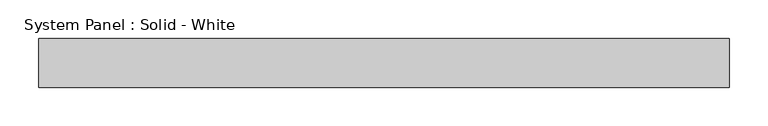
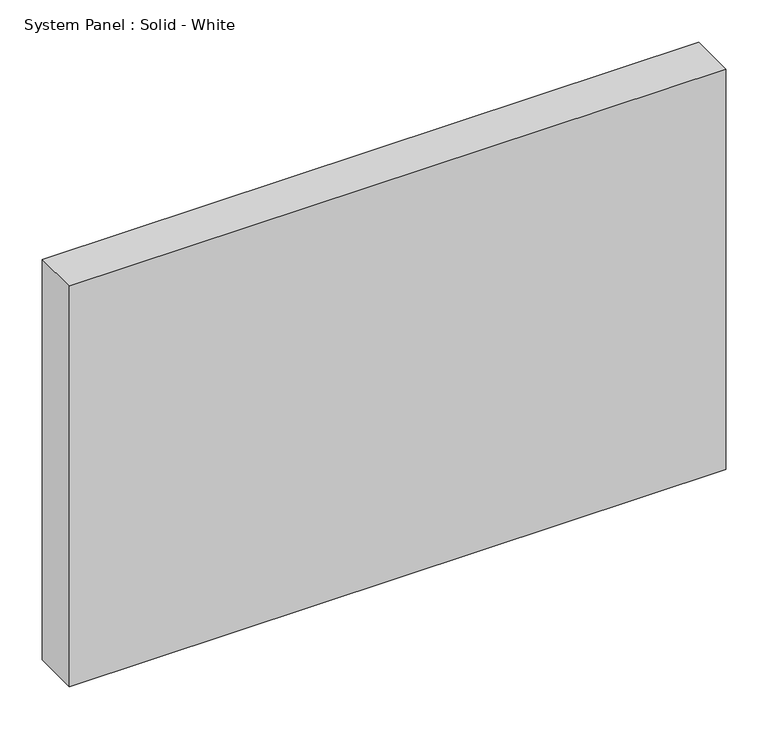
"""IFC4 building model written with IfcOpenShell, lengths in millimetres: plate geometry, System Panel : Solid - White."""

from ifc_helpers import new_model, si_unit, origin, origin_with_axes, place, context, project, spatial, polyline, outline, extrude, source, transform, mapped, element, save


def system_panel_solid_white_9fce84d4(model_context):
    return source(origin(), model_context, "Body", "SweptSolid", [
        extrude(outline(polyline([(447.675, -19.05), (-447.675, -19.05), (-447.675, 44.45), (447.675, 44.45), (447.675, -19.05)])), origin_with_axes(), (0.0, 0.0, 1.0), 577.85),
    ])


if __name__ == "__main__":
    model = new_model("IFC4")
    model_context = context("Model", 3, world=origin())
    ifc_project = project(units=[si_unit("LENGTHUNIT", "METRE", prefix="MILLI")], contexts=[model_context])
    site = spatial("IfcSite", under=ifc_project)
    building = spatial("IfcBuilding", under=site)
    placement = place(None, origin())
    system_panel_solid_white_shape = system_panel_solid_white_9fce84d4(model_context)
    element("IfcPlate", 1, ObjectType="System Panel : Solid - White", at=placement, inside=building, context=model_context, shape_type="MappedRepresentation", body=[
        mapped(system_panel_solid_white_shape, transform((0.0, 0.0, 0.0), x_axis=(1.0, 0.0, 0.0), y_axis=(0.0, 1.0, 0.0), z_axis=(0.0, 0.0, 1.0))),
    ])
    save(model, "model.ifc")
